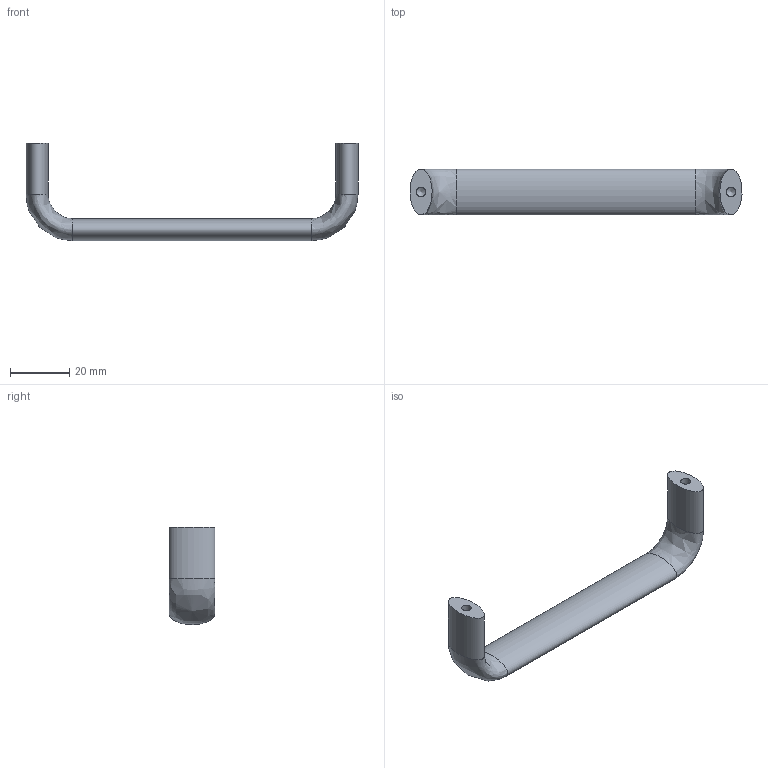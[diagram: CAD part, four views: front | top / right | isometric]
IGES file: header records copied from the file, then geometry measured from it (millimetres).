
Global section: file name: DR_A-GA15-105; native system: Autodesk Inventor 2015; preprocessor: unknown; author: user; date: 20170710.164842; units: millimetre
Bounding box: 112.47 x 15.5 x 32.98 mm (x, y, z)
Volume: 13714.1 mm3; surface area: 6062 mm2
Topology: 1 solids, 1 shells, 11 faces, 25 edges, 16 vertices
Faces by surface type: bspline 11
